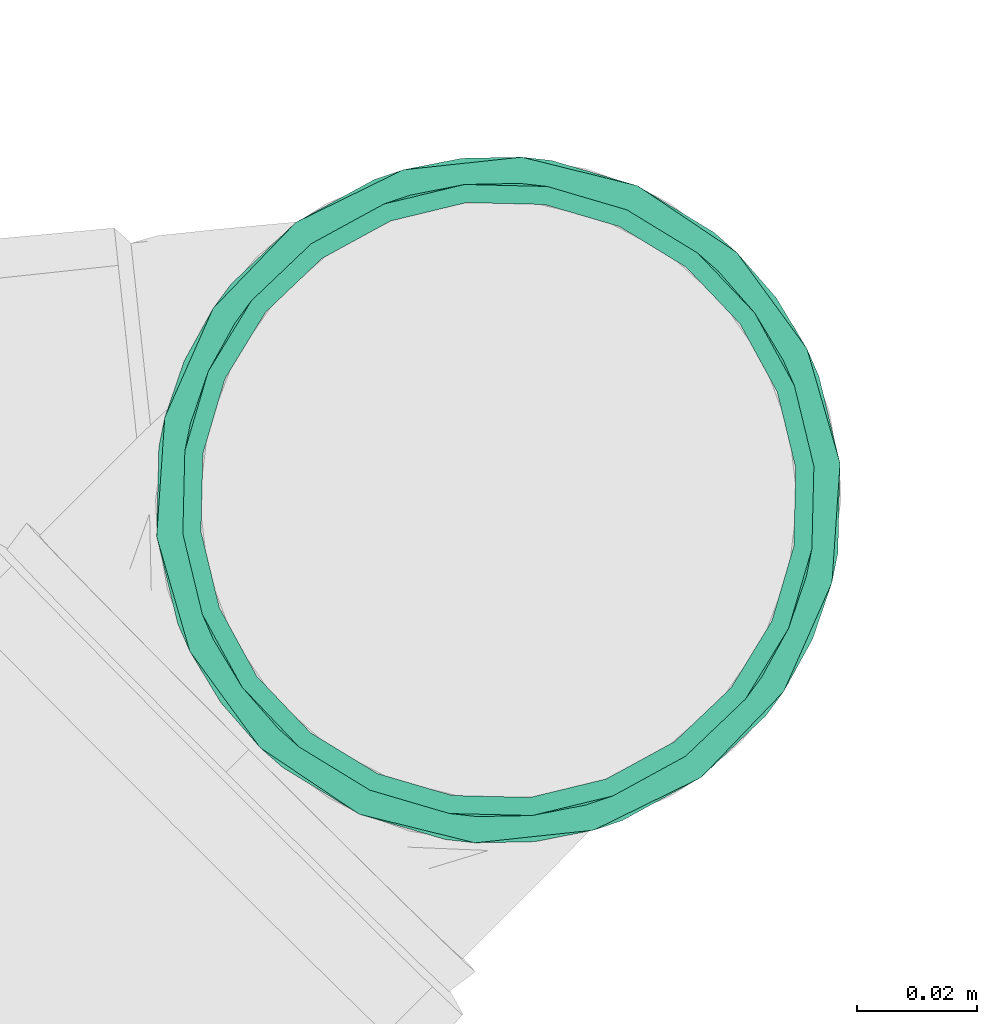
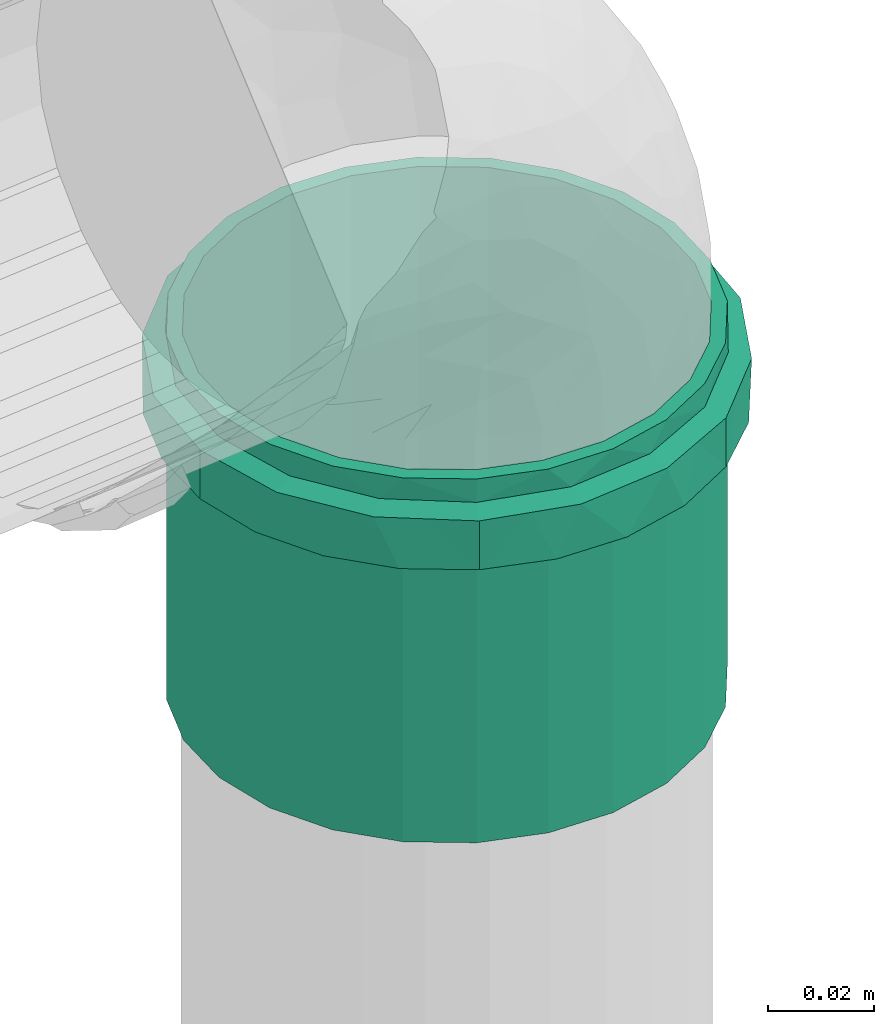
# One storey, part 45 of 97: 1 flow fitting.
"""IFC2X3 building model written with IfcOpenShell, lengths in centimetres."""

import ifcopenshell
import ifcopenshell.guid

model = None  # the IFC model being written
_history = None  # IfcOwnerHistory: only IFC2X3 demands one
_inside = {}  # id of a spatial element -> (the spatial element, [elements in it])
_under = {}  # id of a project, library or spatial element -> (it, [spatial elements below it])
_declared = {}  # id of a project -> (the project, [libraries it declares])
_typed = {}  # id of a type object -> (the type object, [elements of that type])
_made_of = {}  # id of a material, layer set ... -> (it, [elements and type objects made of it])


def new_model(schema):
    """Start an empty IFC model of exactly this schema.

    Asked for "IFC4X3", IfcOpenShell would pick the latest addendum, in which some entities
    have other attributes; the version numbers below select the first issue.
    IFC2X3 requires an IfcOwnerHistory on every rooted entity: one is made here for all.
    """
    global model, _history
    if schema == "IFC4X3":
        model = ifcopenshell.file(schema_version=(4, 3, 0, 0))
    else:
        model = ifcopenshell.file(schema=schema)
    _inside.clear()
    _under.clear()
    _declared.clear()
    _typed.clear()
    _made_of.clear()
    _history = None
    if model.schema == "IFC2X3":
        org = make("IfcOrganization", Name="unknown")
        user = make(
            "IfcPersonAndOrganization",
            ThePerson=make("IfcPerson", FamilyName="unknown"),
            TheOrganization=org,
        )
        app = make(
            "IfcApplication",
            ApplicationDeveloper=org,
            Version="unknown",
            ApplicationFullName="unknown",
            ApplicationIdentifier="unknown",
        )
        _history = make(
            "IfcOwnerHistory",
            OwningUser=user,
            OwningApplication=app,
            ChangeAction="ADDED",
            CreationDate=0,
        )
    return model


def make(cls, **values):
    """One entity of the class cls with the attributes given. An attribute that is None is left unset."""
    return model.create_entity(
        cls, **{name: value for name, value in values.items() if value is not None}
    )


def entity(cls, *values):
    """Any entity or typed value of the class cls, its attributes in the order of the schema. None: left unset."""
    e = model.create_entity(cls)
    for i, value in enumerate(values):
        if value is not None:
            e[i] = value
    return e


def rooted(cls, **values):
    """An entity with a GlobalId (a new one), such as an element, a storey or a relation."""
    return make(cls, GlobalId=ifcopenshell.guid.new(), OwnerHistory=_history, **values)


def si_unit(unit_type, name, prefix=None):
    """IfcSIUnit, for example si_unit("LENGTHUNIT", "METRE", prefix="MILLI")."""
    return make("IfcSIUnit", UnitType=unit_type, Prefix=prefix, Name=name)


def converted_unit(unit_type, name, factor, base, dimensions=None, offset=None):
    """IfcConversionBasedUnit, such as the inch: factor (a typed value) times the base unit."""
    return make(
        "IfcConversionBasedUnit"
        if offset is None
        else "IfcConversionBasedUnitWithOffset",
        ConversionOffset=offset,
        Dimensions=None
        if dimensions is None
        else entity("IfcDimensionalExponents", *dimensions),
        UnitType=unit_type,
        Name=name,
        ConversionFactor=make(
            "IfcMeasureWithUnit", ValueComponent=factor, UnitComponent=base
        ),
    )


def derived_unit(unit_type, elements):
    """IfcDerivedUnit: a product of units, each with its exponent."""
    return make(
        "IfcDerivedUnit",
        Elements=[
            make("IfcDerivedUnitElement", Unit=unit, Exponent=power)
            for unit, power in elements
        ],
        UnitType=unit_type,
    )


def assignment(units):
    """IfcUnitAssignment: the units of a project."""
    return None if units is None else make("IfcUnitAssignment", Units=units)


def point(xyz):
    """IfcCartesianPoint."""
    return None if xyz is None else make("IfcCartesianPoint", Coordinates=xyz)


def direction(xyz):
    """IfcDirection."""
    return None if xyz is None else make("IfcDirection", DirectionRatios=xyz)


def frame(location, z_axis=None, x_axis=None):
    """IfcAxis2Placement3D, a coordinate frame: its origin and axes. An axis left out is left unset."""
    return make(
        "IfcAxis2Placement3D",
        Location=point(location),
        Axis=direction(z_axis),
        RefDirection=direction(x_axis),
    )


def origin():
    """The frame at (0, 0, 0) with its axes left unset."""
    return frame((0.0, 0.0, 0.0))


def place(relative_to, where):
    """IfcLocalPlacement: puts the frame where relative to a parent placement (None: the world)."""
    return make(
        "IfcLocalPlacement", PlacementRelTo=relative_to, RelativePlacement=where
    )


def context(
    kind, dimensions, precision=None, world=None, true_north=None, identifier=None
):
    """IfcGeometricRepresentationContext, for example the 3D "Model" context."""
    return make(
        "IfcGeometricRepresentationContext",
        ContextIdentifier=identifier,
        ContextType=kind,
        CoordinateSpaceDimension=dimensions,
        Precision=precision,
        WorldCoordinateSystem=world,
        TrueNorth=true_north,
    )


def subcontext(parent, identifier, kind, view, scale=None):
    """IfcGeometricRepresentationSubContext, for example "Body" below "Model"."""
    return make(
        "IfcGeometricRepresentationSubContext",
        ContextIdentifier=identifier,
        ContextType=kind,
        ParentContext=parent,
        TargetScale=scale,
        TargetView=view,
    )


def project(units=None, contexts=None):
    """IfcProject with its units and contexts."""
    return rooted(
        "IfcProject",
        Name="project",
        RepresentationContexts=contexts,
        UnitsInContext=assignment(units),
    )


def spatial(cls, under=None, at=None, **own):
    """A site, building, storey or space (cls), placed at a placement, below another one or the project."""
    s = rooted(cls, ObjectPlacement=at, **own)
    if under is not None:
        _under.setdefault(under.id(), (under, []))[1].append(s)
    return s


def faces_of(points, faces, orient=None, outer=None):
    """IfcFace entities. A face is a list of loops; a loop is a list of indices into points, from 0.

    orient and outer hold one flag for each loop. By default every Orientation is true, the
    first loop of a face is its IfcFaceOuterBound and the others are IfcFaceBound.
    """
    made = []
    for i, loops in enumerate(faces):
        bounds = []
        for j, loop in enumerate(loops):
            is_outer = j == 0 if outer is None else outer[i][j]
            bounds.append(
                make(
                    "IfcFaceOuterBound" if is_outer else "IfcFaceBound",
                    Bound=make("IfcPolyLoop", Polygon=[points[k] for k in loop]),
                    Orientation=True if orient is None else orient[i][j],
                )
            )
        made.append(make("IfcFace", Bounds=bounds))
    return made


def faceted_brep(points, faces, orient=None, outer=None, voids=None):
    """IfcFacetedBrep: a solid bounded by flat faces; with voids (closed shells), ...WithVoids."""
    shared = [point(p) for p in points]
    hull = make("IfcClosedShell", CfsFaces=faces_of(shared, faces, orient, outer))
    if voids is None:
        return make("IfcFacetedBrep", Outer=hull)
    return make(
        "IfcFacetedBrepWithVoids",
        Outer=hull,
        Voids=[
            make(cls, CfsFaces=faces_of(shared, fs, o, b)) for cls, fs, o, b in voids
        ],
    )


def shape(context_of_items, identifier, shape_type, items):
    """IfcShapeRepresentation: the items that make up one representation, for example the "Body"."""
    return make(
        "IfcShapeRepresentation",
        ContextOfItems=context_of_items,
        RepresentationIdentifier=identifier,
        RepresentationType=shape_type,
        Items=items,
    )


def source(mapping_origin, context_of_items, identifier, shape_type, items):
    """IfcRepresentationMap: a shape defined once, which mapped items show again and again."""
    return make(
        "IfcRepresentationMap",
        MappingOrigin=mapping_origin,
        MappedRepresentation=shape(context_of_items, identifier, shape_type, items),
    )


def transform(
    local_origin,
    x_axis=None,
    y_axis=None,
    z_axis=None,
    scale=None,
    scale2=None,
    scale3=None,
    uniform=True,
):
    """IfcCartesianTransformationOperator3D, or its non-uniform kind. x_axis, y_axis, z_axis: its Axis1, 2, 3."""
    if uniform:
        return make(
            "IfcCartesianTransformationOperator3D",
            Axis1=direction(x_axis),
            Axis2=direction(y_axis),
            LocalOrigin=point(local_origin),
            Scale=scale,
            Axis3=direction(z_axis),
        )
    return make(
        "IfcCartesianTransformationOperator3DnonUniform",
        Axis1=direction(x_axis),
        Axis2=direction(y_axis),
        LocalOrigin=point(local_origin),
        Scale=scale,
        Axis3=direction(z_axis),
        Scale2=scale2,
        Scale3=scale3,
    )


def mapped(mapping_source, mapping_target):
    """IfcMappedItem: shows the shape of a source again, moved by a transform."""
    return make(
        "IfcMappedItem", MappingSource=mapping_source, MappingTarget=mapping_target
    )


def material(Name=None, Category=None):
    """IfcMaterial."""
    return make("IfcMaterial", Name=Name, Category=Category)


def made_of(thing, what):
    """Note that an element or type object is made of a material, layer set ...; save() writes the relation."""
    if what is not None:
        _made_of.setdefault(what.id(), (what, []))[1].append(thing)
    return thing


def type_object(cls, material=None, **own):
    """A type object (cls), such as IfcWallType, which elements share."""
    return made_of(rooted(cls, **own), material)


def type_shapes(of_type, sources):
    """Give a type object the sources (RepresentationMaps) that its elements show as mapped items."""
    of_type.RepresentationMaps = sources


def element(
    cls,
    number,
    at=None,
    inside=None,
    cuts=None,
    type_object=None,
    material=None,
    context=None,
    identifier="Body",
    shape_type=None,
    held_by="IfcProductDefinitionShape",
    body=None,
    shapes=None,
    **own,
):
    """One element of the class cls, such as IfcWall. Its Tag is "e" and its number.

    at: its placement. inside: the storey or other place that contains it. cuts: it is an
    opening in that element (IfcRelVoidsElement). A single representation is given by context,
    identifier, shape_type and body (its items); several are given by shapes. held_by: the class
    of the entity that holds the representations. save() writes the other relations.
    """
    e = rooted(cls, Tag="e%d" % number, ObjectPlacement=at, **own)
    if body is not None:
        shapes = [shape(context, identifier, shape_type, body)]
    if shapes is not None:
        e.Representation = make(held_by, Representations=shapes)
    if inside is not None:
        _inside.setdefault(inside.id(), (inside, []))[1].append(e)
    if cuts is not None:
        rooted(
            "IfcRelVoidsElement", RelatingBuildingElement=cuts, RelatedOpeningElement=e
        )
    if type_object is not None:
        _typed.setdefault(type_object.id(), (type_object, []))[1].append(e)
    return made_of(e, material)


def aggregate(whole, parts):
    """IfcRelAggregates: a whole, such as a stair, and the parts it consists of."""
    return rooted("IfcRelAggregates", RelatingObject=whole, RelatedObjects=parts)


def save(model, path):
    """Write the relations noted so far, then the file.

    IfcRelAggregates (storeys below a building ...), IfcRelContainedInSpatialStructure (elements
    in a storey), IfcRelDefinesByType, IfcRelAssociatesMaterial and IfcRelDeclares: one each for
    every whole, place, type object, material and project.
    """
    for whole, parts in _under.values():
        aggregate(whole, parts)
    for where, things in _inside.values():
        rooted(
            "IfcRelContainedInSpatialStructure",
            RelatedElements=things,
            RelatingStructure=where,
        )
    for kind, things in _typed.values():
        rooted("IfcRelDefinesByType", RelatedObjects=things, RelatingType=kind)
    for what, things in _made_of.values():
        rooted("IfcRelAssociatesMaterial", RelatedObjects=things, RelatingMaterial=what)
    for by, libraries in _declared.values():
        rooted("IfcRelDeclares", RelatingContext=by, RelatedDefinitions=libraries)
    model.write(path)


model = new_model("IFC2X3")

# Units and contexts
model_context = context("Model", 3, precision=0.001, world=origin(), true_north=direction((6.12303176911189e-17, 1.0)))
body_context = subcontext(model_context, "Body", "Model", "MODEL_VIEW")
ifc_project = project(units=[si_unit("LENGTHUNIT", "METRE", prefix="CENTI"), si_unit("AREAUNIT", "SQUARE_METRE"), si_unit("VOLUMEUNIT", "CUBIC_METRE"), converted_unit("PLANEANGLEUNIT", "DEGREE", entity("IfcRatioMeasure", 0.0174532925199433), si_unit("PLANEANGLEUNIT", "RADIAN"), dimensions=[0, 0, 0, 0, 0, 0, 0]), si_unit("MASSUNIT", "GRAM", prefix="KILO"), derived_unit("MASSDENSITYUNIT", [(si_unit("MASSUNIT", "GRAM", prefix="KILO"), 1), (si_unit("LENGTHUNIT", "METRE"), -3)]), derived_unit("MOMENTOFINERTIAUNIT", [(si_unit("LENGTHUNIT", "METRE"), 4)]), si_unit("TIMEUNIT", "SECOND"), si_unit("FREQUENCYUNIT", "HERTZ"), si_unit("THERMODYNAMICTEMPERATUREUNIT", "DEGREE_CELSIUS"), derived_unit("THERMALTRANSMITTANCEUNIT", [(si_unit("MASSUNIT", "GRAM", prefix="KILO"), 1), (si_unit("THERMODYNAMICTEMPERATUREUNIT", "KELVIN"), -1), (si_unit("TIMEUNIT", "SECOND"), -3)]), derived_unit("VOLUMETRICFLOWRATEUNIT", [(si_unit("LENGTHUNIT", "METRE"), 3), (si_unit("TIMEUNIT", "SECOND"), -1)]), si_unit("ELECTRICCURRENTUNIT", "AMPERE"), si_unit("ELECTRICVOLTAGEUNIT", "VOLT"), si_unit("POWERUNIT", "WATT"), si_unit("FORCEUNIT", "NEWTON", prefix="KILO"), si_unit("ILLUMINANCEUNIT", "LUX"), si_unit("LUMINOUSFLUXUNIT", "LUMEN"), si_unit("LUMINOUSINTENSITYUNIT", "CANDELA"), derived_unit("USERDEFINED", [(si_unit("MASSUNIT", "GRAM", prefix="KILO"), -1), (si_unit("LENGTHUNIT", "METRE"), -2), (si_unit("TIMEUNIT", "SECOND"), 3), (si_unit("LUMINOUSFLUXUNIT", "LUMEN"), 1)]), derived_unit("LINEARVELOCITYUNIT", [(si_unit("LENGTHUNIT", "METRE"), 1), (si_unit("TIMEUNIT", "SECOND"), -1)]), si_unit("PRESSUREUNIT", "PASCAL"), derived_unit("USERDEFINED", [(si_unit("LENGTHUNIT", "METRE"), -2), (si_unit("MASSUNIT", "GRAM", prefix="KILO"), 1), (si_unit("TIMEUNIT", "SECOND"), -2)]), derived_unit("LINEARFORCEUNIT", [(si_unit("MASSUNIT", "GRAM", prefix="KILO"), 1), (si_unit("LENGTHUNIT", "METRE"), 1), (si_unit("TIMEUNIT", "SECOND"), -2), (si_unit("LENGTHUNIT", "METRE"), -1)]), derived_unit("PLANARFORCEUNIT", [(si_unit("MASSUNIT", "GRAM", prefix="KILO"), 1), (si_unit("LENGTHUNIT", "METRE"), 1), (si_unit("TIMEUNIT", "SECOND"), -2), (si_unit("LENGTHUNIT", "METRE"), -2)])], contexts=[model_context])

# Site, building, storey
site_placement = place(None, origin())
site = spatial("IfcSite", under=ifc_project, at=site_placement, Name="Default", CompositionType="ELEMENT")
building_placement = place(site_placement, origin())
building = spatial("IfcBuilding", under=site, at=building_placement, Name="HIDROSSANITÁRIO", CompositionType="ELEMENT")
storey_placement = place(building_placement, frame((0.0, 0.0, -260.0)))
storey = spatial("IfcBuildingStorey", under=building, at=storey_placement, Name="TÉRREO-HID", CompositionType="ELEMENT", Elevation=-260.0)

# Flow fitting
ifc_material = material(Name="PVC Branco")
pipe_fitting_type = type_object("IfcPipeFittingType", Name="Luva Simples para Conexão - Serie Normal - Esgoto - MEP - Tigre:Standard", PredefinedType="NOTDEFINED", material=ifc_material)
shared_shape = source(origin(), body_context, "Body", "Brep", [
    faceted_brep([(1.77700000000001, 2.8725, -4.9753159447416), (1.77700000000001, 4.06232845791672, -4.06232845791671), (1.77700000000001, 2.65249999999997, -4.59426476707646), (1.77700000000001, 1.37303503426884, -5.12423650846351), (1.77700000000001, 1.48691541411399, -5.5492438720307), (1.77700000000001, 3.75120147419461, -3.75120147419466), (1.77700000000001, 4.9753159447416, -2.8725), (1.77700000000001, 4.59426476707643, -2.65250000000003), (1.77700000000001, 5.1242365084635, -1.37303503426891), (1.77700000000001, 5.5492438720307, -1.48691541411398), (1.77700000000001, 5.305, 0.0), (1.77700000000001, 5.745, 0.0), (1.77700000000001, 5.1242365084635, 1.3730350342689), (1.77700000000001, 5.54924387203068, 1.48691541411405), (1.77700000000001, 4.59426476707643, 2.65250000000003), (1.77700000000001, 4.97531594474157, 2.87250000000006), (1.77700000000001, 3.75120147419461, 3.75120147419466), (1.77700000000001, 4.06232845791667, 4.06232845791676), (1.77700000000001, 2.65249999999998, 4.59426476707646), (1.77700000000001, 2.87249999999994, 4.97531594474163), (1.77700000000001, 1.37303503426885, 5.12423650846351), (1.77700000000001, 1.48691541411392, 5.54924387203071), (1.77700000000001, 0.0, 5.305), (1.77700000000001, 0.0, 5.745), (1.77700000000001, -1.37303503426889, 5.1242365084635), (1.77700000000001, -1.48691541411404, 5.54924387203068), (1.77700000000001, -2.65250000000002, 4.59426476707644), (1.77700000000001, -2.87250000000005, 4.97531594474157), (1.77700000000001, -3.75120147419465, 3.75120147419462), (1.77700000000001, -4.06232845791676, 4.06232845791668), (1.77700000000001, -4.59426476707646, 2.65249999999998), (1.77700000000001, -4.97531594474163, 2.87249999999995), (1.77700000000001, -5.54924387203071, 1.48691541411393), (1.77700000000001, -5.12423650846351, 1.37303503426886), (1.77700000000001, -5.745, 0.0), (1.77700000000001, -5.305, 0.0), (1.77700000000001, -5.54924387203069, -1.486915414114), (1.77700000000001, -5.12423650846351, -1.37303503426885), (1.77700000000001, -4.97531594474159, -2.87250000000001), (1.77700000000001, -4.59426476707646, -2.65249999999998), (1.77700000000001, -4.06232845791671, -4.06232845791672), (1.77700000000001, -3.75120147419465, -3.75120147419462), (1.77700000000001, -2.87249999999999, -4.97531594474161), (1.77700000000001, -2.65250000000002, -4.59426476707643), (1.77700000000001, -1.48691541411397, -5.5492438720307), (1.77700000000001, -1.3730350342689, -5.1242365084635), (1.77700000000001, 0.0, -5.745), (1.77700000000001, 0.0, -5.305), (0.657000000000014, -1.93463887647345, 5.31665771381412), (0.657000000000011, -4.4007619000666, 3.69300957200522), (0.657000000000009, -4.89962626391, 2.82901737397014), (0.657000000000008, -5.39849062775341, 1.96502517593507), (0.657000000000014, -2.87216972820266, 4.97550661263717), (0.657000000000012, -3.63646581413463, 4.3342580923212), (0.657000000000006, -5.5717453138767, 0.982512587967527), (0.657000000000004, -5.745, 0.0), (0.657000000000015, -0.997108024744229, 5.65780881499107), (0.657000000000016, 0.998234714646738, 5.65761013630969), (0.657000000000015, 0.0005633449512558, 5.65770947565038), (0.657000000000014, 3.63732887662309, 4.33353383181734), (0.657000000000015, 1.93569761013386, 5.31627233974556), (0.657000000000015, 2.87316050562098, 4.97493454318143), (0.65700000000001, 5.39888184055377, 1.96395006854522), (0.657000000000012, 4.90018954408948, 2.82804159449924), (0.657000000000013, 4.40149724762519, 3.69213312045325), (0.657000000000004, 5.745, 0.0), (0.656999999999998, 4.40149724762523, -3.6921331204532), (0.657, 4.90018954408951, -2.82804159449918), (0.657000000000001, 5.39888184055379, -1.96395006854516), (0.656999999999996, 2.87316050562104, -4.9749345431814), (0.656999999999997, 3.63732887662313, -4.3335338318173), (0.656999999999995, 1.93569761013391, -5.31627233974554), (0.656999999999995, 0.998234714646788, -5.65761013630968), (0.656999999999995, -0.997108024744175, -5.65780881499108), (0.656999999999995, 0.000563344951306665, -5.65770947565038), (0.656999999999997, -3.6364658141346, -4.33425809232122), (0.656999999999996, -2.87216972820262, -4.9755066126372), (0.656999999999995, -1.9346388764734, -5.31665771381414), (0.657000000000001, -5.39849062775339, -1.96502517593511), (0.657, -4.89962626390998, -2.82901737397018), (0.656999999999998, -4.40076190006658, -3.69300957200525), (0.657000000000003, -5.5717453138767, -0.982512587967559), (8.35200000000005, 2.6525, -4.59426476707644), (8.35200000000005, 3.75120147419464, -3.75120147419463), (8.35200000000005, 2.49999999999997, -4.33012701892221), (8.35200000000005, 1.29409522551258, -4.82962913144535), (8.35200000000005, 1.37303503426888, -5.1242365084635), (8.35200000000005, 3.53553390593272, -3.53553390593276), (8.35200000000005, 4.59426476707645, -2.6525), (8.35200000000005, 4.33012701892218, -2.50000000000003), (8.35200000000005, 4.82962913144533, -1.29409522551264), (8.35200000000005, 5.12423650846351, -1.37303503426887), (8.35200000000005, 5.0, 0.0), (8.35200000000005, 5.305, 0.0), (8.35200000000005, 4.82962913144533, 1.29409522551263), (8.35200000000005, 5.12423650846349, 1.37303503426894), (8.35200000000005, 4.33012701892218, 2.50000000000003), (8.35200000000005, 4.59426476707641, 2.65250000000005), (8.35200000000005, 3.53553390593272, 3.53553390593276), (8.35200000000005, 3.75120147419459, 3.75120147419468), (8.35200000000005, 2.49999999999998, 4.33012701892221), (8.35200000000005, 2.65249999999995, 4.59426476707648), (8.35200000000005, 1.29409522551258, 4.82962913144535), (8.35200000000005, 1.37303503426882, 5.12423650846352), (8.35200000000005, 0.0, 5.0), (8.35200000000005, 0.0, 5.305), (8.35200000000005, -1.29409522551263, 4.82962913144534), (8.35200000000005, -1.37303503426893, 5.12423650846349), (8.35200000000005, -2.50000000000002, 4.33012701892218), (8.35200000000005, -2.65250000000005, 4.59426476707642), (8.35200000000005, -3.53553390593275, 3.53553390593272), (8.35200000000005, -3.75120147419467, 3.7512014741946), (8.35200000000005, -4.3301270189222, 2.49999999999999), (8.35200000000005, -4.59426476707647, 2.65249999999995), (8.35200000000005, -5.12423650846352, 1.37303503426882), (8.35200000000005, -4.82962913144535, 1.29409522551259), (8.35200000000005, -5.305, 0.0), (8.35200000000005, -5.0, 0.0), (8.35200000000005, -5.1242365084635, -1.37303503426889), (8.35200000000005, -4.82962913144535, -1.29409522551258), (8.35200000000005, -4.59426476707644, -2.65250000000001), (8.35200000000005, -4.3301270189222, -2.49999999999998), (8.35200000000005, -3.75120147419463, -3.75120147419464), (8.35200000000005, -3.53553390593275, -3.53553390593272), (8.35200000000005, -2.65249999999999, -4.59426476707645), (8.35200000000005, -2.50000000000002, -4.33012701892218), (8.35200000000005, -1.37303503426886, -5.12423650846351), (8.35200000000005, -1.29409522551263, -4.82962913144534), (8.35200000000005, 0.0, -5.305), (8.35200000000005, 0.0, -5.0), (0.0, 2.49999999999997, -4.33012701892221), (0.0, 3.75120147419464, -3.75120147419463), (0.0, 2.6525, -4.59426476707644), (0.0, 1.29409522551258, -4.82962913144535), (0.0, 3.53553390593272, -3.53553390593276), (0.0, 4.59426476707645, -2.6525), (0.0, 4.33012701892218, -2.50000000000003), (0.0, 4.82962913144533, -1.29409522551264), (0.0, 5.12423650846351, -1.37303503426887), (0.0, 5.0, 0.0), (0.0, 5.305, 0.0), (0.0, 4.82962913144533, 1.29409522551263), (0.0, 5.12423650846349, 1.37303503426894), (0.0, 4.33012701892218, 2.50000000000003), (0.0, 4.59426476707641, 2.65250000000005), (0.0, 3.53553390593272, 3.53553390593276), (0.0, 3.75120147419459, 3.75120147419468), (0.0, 2.49999999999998, 4.33012701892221), (0.0, 2.65249999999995, 4.59426476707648), (0.0, 1.29409522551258, 4.82962913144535), (0.0, 1.37303503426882, 5.12423650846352), (0.0, 0.0, 5.0), (0.0, 0.0, 5.305), (0.0, -1.29409522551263, 4.82962913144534), (0.0, -1.37303503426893, 5.12423650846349), (0.0, -2.50000000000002, 4.33012701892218), (0.0, -2.65250000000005, 4.59426476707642), (0.0, -3.53553390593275, 3.53553390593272), (0.0, -3.75120147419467, 3.7512014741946), (0.0, -4.3301270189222, 2.49999999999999), (0.0, -4.59426476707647, 2.65249999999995), (0.0, -5.12423650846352, 1.37303503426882), (0.0, -4.82962913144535, 1.29409522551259), (0.0, -5.305, 0.0), (0.0, -5.0, 0.0), (0.0, -5.1242365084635, -1.37303503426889), (0.0, -4.82962913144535, -1.29409522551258), (0.0, -4.59426476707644, -2.65250000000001), (0.0, -4.3301270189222, -2.49999999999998), (0.0, -3.75120147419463, -3.75120147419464), (0.0, -3.53553390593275, -3.53553390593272), (0.0, -2.65249999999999, -4.59426476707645), (0.0, -2.50000000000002, -4.33012701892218), (0.0, -1.37303503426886, -5.12423650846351), (0.0, -1.29409522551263, -4.82962913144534), (0.0, 0.0, -5.305), (0.0, 0.0, -5.0), (0.0, 1.37303503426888, -5.1242365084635), (0.537000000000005, -5.305, 0.0), (0.537000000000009, -4.98507989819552, 1.81438788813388), (0.537000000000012, -4.06390540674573, 3.4099410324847), (0.537000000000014, -2.65258010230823, 4.59421851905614), (0.537000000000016, -0.921325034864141, 5.22438371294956), (0.537000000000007, 5.1449924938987, 0.907324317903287), (0.537000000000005, 5.305, 0.0), (0.537000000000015, 2.65233979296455, 4.59435725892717), (0.537000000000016, 0.921051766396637, 5.22443189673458), (0.537000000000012, 4.06372704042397, 3.41015359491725), (0.537000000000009, 4.9849849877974, 1.81464863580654), (0.537000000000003, 5.14499249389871, -0.907324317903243), (0.537000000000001, 4.98498498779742, -1.81464863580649), (0.536999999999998, 4.063727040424, -3.41015359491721), (0.536999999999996, 2.6523397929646, -4.59435725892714), (0.536999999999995, 0.921051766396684, -5.22443189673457), (0.536999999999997, -2.6525801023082, -4.59421851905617), (0.536999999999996, -0.921325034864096, -5.22438371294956), (0.536999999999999, -4.0639054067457, -3.40994103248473), (0.537000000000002, -4.98507989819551, -1.81438788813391), (5.0, -5.0, 0.0), (5.0, 5.0, 0.0)], [[[0, 1, 2]], [[0, 2, 3]], [[3, 4, 0]], [[2, 1, 5]], [[6, 5, 1]], [[5, 6, 7]], [[7, 6, 8]], [[9, 8, 6]], [[9, 10, 8]], [[10, 9, 11]], [[12, 10, 11]], [[11, 13, 12]], [[12, 13, 14]], [[15, 14, 13]], [[14, 15, 16]], [[16, 15, 17]], [[18, 16, 17]], [[17, 19, 18]], [[18, 19, 20]], [[21, 20, 19]], [[20, 21, 22]], [[22, 21, 23]], [[22, 23, 24]], [[24, 23, 25]], [[24, 25, 26]], [[27, 26, 25]], [[27, 28, 26]], [[28, 27, 29]], [[29, 30, 28]], [[31, 30, 29]], [[30, 31, 32]], [[32, 33, 30]], [[34, 33, 32]], [[34, 35, 33]], [[36, 35, 34]], [[36, 37, 35]], [[37, 36, 38]], [[38, 39, 37]], [[39, 38, 40]], [[39, 40, 41]], [[40, 42, 41]], [[41, 42, 43]], [[43, 42, 44]], [[44, 45, 43]], [[46, 45, 44]], [[4, 47, 46]], [[46, 47, 45]], [[4, 3, 47]], [[48, 27, 25]], [[31, 29, 49]], [[31, 49, 50, 51]], [[52, 53, 27]], [[32, 51, 54]], [[54, 55, 34]], [[54, 34, 32]], [[25, 56, 48]], [[49, 29, 53]], [[23, 57, 58, 56]], [[59, 19, 17]], [[27, 53, 29]], [[48, 52, 27]], [[31, 51, 32]], [[57, 23, 21]], [[60, 19, 61]], [[15, 62, 63, 64]], [[19, 60, 21]], [[15, 13, 62]], [[17, 64, 59]], [[57, 21, 60]], [[23, 56, 25]], [[15, 64, 17]], [[13, 65, 62]], [[13, 11, 65]], [[59, 61, 19]], [[65, 11, 9]], [[6, 1, 66]], [[6, 66, 67, 68]], [[69, 70, 0]], [[68, 65, 9]], [[71, 69, 0]], [[71, 0, 4]], [[4, 72, 71]], [[66, 1, 70]], [[46, 73, 74, 72]], [[75, 76, 42]], [[0, 70, 1]], [[75, 42, 40]], [[6, 68, 9]], [[73, 46, 44]], [[77, 42, 76]], [[38, 78, 79, 80]], [[42, 77, 44]], [[38, 36, 78]], [[40, 80, 75]], [[73, 44, 77]], [[46, 72, 4]], [[38, 80, 40]], [[81, 78, 36]], [[55, 81, 34]], [[34, 81, 36]], [[82, 83, 84]], [[82, 84, 85]], [[85, 86, 82]], [[84, 83, 87]], [[88, 87, 83]], [[87, 88, 89]], [[89, 88, 90]], [[91, 90, 88]], [[91, 92, 90]], [[92, 91, 93]], [[94, 92, 93]], [[93, 95, 94]], [[94, 95, 96]], [[97, 96, 95]], [[96, 97, 98]], [[98, 97, 99]], [[100, 98, 99]], [[99, 101, 100]], [[100, 101, 102]], [[103, 102, 101]], [[102, 103, 104]], [[104, 103, 105]], [[104, 105, 106]], [[106, 105, 107]], [[106, 107, 108]], [[109, 108, 107]], [[110, 108, 109]], [[110, 109, 111]], [[111, 112, 110]], [[113, 112, 111]], [[112, 113, 114]], [[114, 115, 112]], [[116, 115, 114]], [[116, 117, 115]], [[118, 117, 116]], [[118, 119, 117]], [[119, 118, 120]], [[120, 121, 119]], [[121, 120, 122]], [[121, 122, 123]], [[122, 124, 123]], [[125, 123, 124]], [[125, 124, 126]], [[126, 127, 125]], [[128, 127, 126]], [[86, 129, 128]], [[128, 129, 127]], [[86, 85, 129]], [[130, 131, 132]], [[133, 130, 132]], [[134, 131, 130]], [[131, 134, 135]], [[136, 135, 134]], [[137, 135, 136]], [[135, 137, 138]], [[137, 139, 138]], [[140, 138, 139]], [[140, 139, 141]], [[141, 142, 140]], [[143, 142, 141]], [[142, 143, 144]], [[145, 144, 143]], [[146, 144, 145]], [[146, 145, 147]], [[147, 148, 146]], [[149, 148, 147]], [[148, 149, 150]], [[151, 150, 149]], [[152, 150, 151]], [[153, 152, 151]], [[154, 152, 153]], [[155, 154, 153]], [[154, 155, 156]], [[156, 155, 157]], [[158, 156, 157]], [[157, 159, 158]], [[158, 159, 160]], [[161, 160, 159]], [[159, 162, 161]], [[161, 162, 163]], [[162, 164, 163]], [[163, 164, 165]], [[164, 166, 165]], [[167, 165, 166]], [[166, 168, 167]], [[169, 167, 168]], [[170, 169, 168]], [[170, 171, 169]], [[171, 170, 172]], [[173, 171, 172]], [[172, 174, 173]], [[173, 174, 175]], [[174, 176, 175]], [[176, 133, 177]], [[175, 176, 177]], [[132, 177, 133]], [[161, 178, 179]], [[158, 180, 181]], [[179, 180, 160]], [[181, 182, 154]], [[179, 160, 161]], [[161, 163, 178]], [[35, 116, 114, 33]], [[183, 184, 140]], [[181, 156, 158]], [[158, 160, 180]], [[181, 154, 156]], [[182, 152, 154]], [[183, 140, 142]], [[185, 150, 186]], [[187, 146, 185]], [[142, 188, 183]], [[187, 188, 144]], [[185, 148, 150]], [[150, 152, 186]], [[187, 144, 146]], [[146, 148, 185]], [[188, 142, 144]], [[186, 152, 182]], [[189, 190, 138]], [[131, 191, 192]], [[190, 191, 135]], [[192, 193, 177]], [[190, 135, 138]], [[184, 189, 140]], [[192, 132, 131]], [[131, 135, 191]], [[192, 177, 132]], [[193, 175, 177]], [[140, 189, 138]], [[194, 173, 195]], [[196, 169, 194]], [[165, 197, 178]], [[196, 197, 167]], [[165, 178, 163]], [[35, 37, 118, 116]], [[194, 171, 173]], [[173, 175, 195]], [[196, 167, 169]], [[169, 171, 194]], [[197, 165, 167]], [[195, 175, 193]], [[115, 117, 198, 164, 162]], [[155, 108, 110, 157]], [[110, 112, 159, 157]], [[112, 115, 162, 159]], [[106, 108, 155, 153]], [[153, 151, 104, 106]], [[102, 104, 151, 149]], [[102, 149, 147, 100]], [[141, 94, 96, 143]], [[96, 98, 145, 143]], [[98, 100, 147, 145]], [[92, 94, 141, 139, 199]], [[199, 139, 137, 90, 92]], [[87, 89, 136, 134]], [[134, 130, 84, 87]], [[89, 90, 137, 136]], [[85, 84, 130, 133]], [[133, 176, 129, 85]], [[127, 129, 176, 174]], [[127, 174, 172, 125]], [[166, 119, 121, 168]], [[121, 123, 170, 168]], [[123, 125, 172, 170]], [[117, 119, 166, 164, 198]], [[81, 178, 197]], [[190, 68, 67]], [[194, 75, 196]], [[193, 72, 74]], [[195, 77, 194]], [[79, 197, 196]], [[81, 55, 178]], [[192, 69, 71]], [[79, 78, 197]], [[194, 77, 76]], [[191, 66, 70]], [[80, 196, 75]], [[68, 190, 189]], [[74, 195, 193]], [[192, 71, 193]], [[190, 67, 191]], [[70, 192, 191]], [[65, 189, 184]], [[195, 73, 77]], [[193, 71, 72]], [[197, 78, 81]], [[191, 67, 66]], [[189, 65, 68]], [[196, 80, 79]], [[70, 69, 192]], [[194, 76, 75]], [[73, 195, 74]], [[65, 183, 62]], [[48, 56, 182]], [[58, 182, 56]], [[54, 51, 179]], [[59, 185, 61]], [[60, 186, 57]], [[53, 52, 181]], [[63, 187, 64]], [[58, 57, 186]], [[187, 63, 188]], [[186, 60, 185]], [[50, 49, 180]], [[185, 59, 187]], [[59, 64, 187]], [[182, 58, 186]], [[50, 179, 51]], [[54, 178, 55]], [[53, 180, 49]], [[63, 62, 188]], [[181, 48, 182]], [[183, 65, 184]], [[179, 50, 180]], [[178, 54, 179]], [[183, 188, 62]], [[180, 53, 181]], [[60, 61, 185]], [[48, 181, 52]], [[30, 33, 114, 113]], [[26, 28, 111, 109]], [[113, 111, 28, 30]], [[107, 24, 26, 109]], [[107, 105, 22, 24]], [[18, 20, 103, 101]], [[99, 16, 18, 101]], [[12, 14, 97, 95]], [[99, 97, 14, 16]], [[10, 12, 95, 93]], [[103, 20, 22, 105]], [[91, 8, 10, 93]], [[88, 7, 8, 91]], [[82, 86, 3, 2]], [[83, 5, 7, 88]], [[2, 5, 83, 82]], [[86, 128, 47, 3]], [[43, 45, 126, 124]], [[122, 41, 43, 124]], [[37, 39, 120, 118]], [[122, 120, 39, 41]], [[126, 45, 47, 128]]]),
])
type_shapes(pipe_fitting_type, [shared_shape])
flow_fitting_placement = place(storey_placement, frame((2816.53133674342, 2849.89579592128, 454.6), z_axis=(0.106567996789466, -0.994305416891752, 0.0), x_axis=(0.0, 0.0, -1.0)))
element("IfcFlowFitting", 1, at=flow_fitting_placement, inside=storey, type_object=pipe_fitting_type, material=ifc_material, Name="Luva Simples para Conexão - Serie Normal - Esgoto - MEP - Tigre:Standard", ObjectType="Luva Simples para Conexão - Serie Normal - Esgoto - MEP - Tigre:Standard", context=body_context, shape_type="MappedRepresentation", body=[
    mapped(shared_shape, transform((0.0, 0.0, 0.0), scale=1.0)),
])

save(model, "model.ifc")
